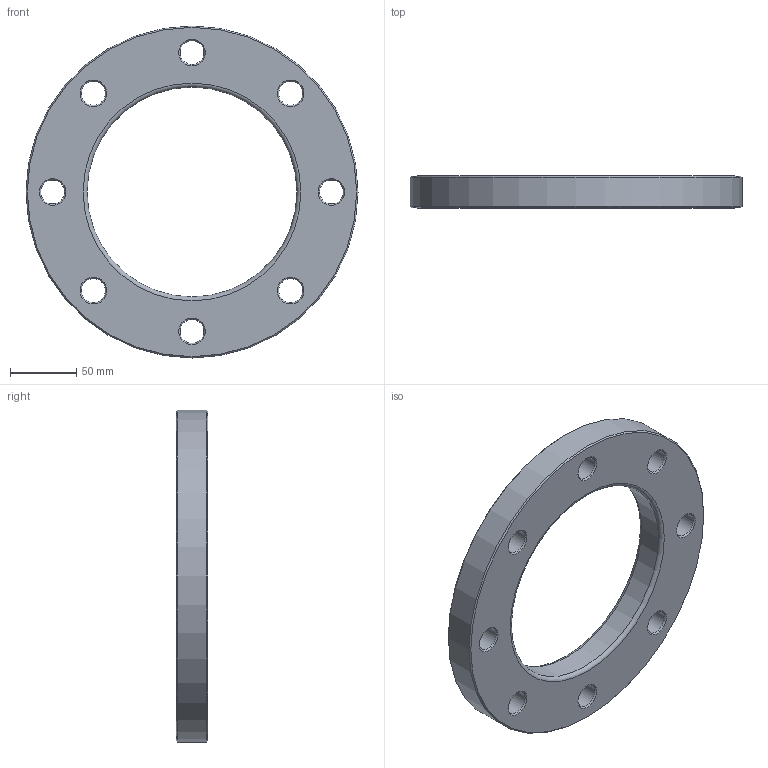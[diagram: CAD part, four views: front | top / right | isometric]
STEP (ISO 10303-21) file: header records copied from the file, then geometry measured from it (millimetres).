
FILE_DESCRIPTION(/* description */ ('Unknown'),/* implementation_level */ '2;1');
FILE_NAME(/* name */ 'FR140C',/* time_stamp */ '2022-07-05T16:48:35+02:00',/* author */ ('Unknown'),/* organization */ ('Unknown'),/* preprocessor_version */ 'ST-DEVELOPER v18.102',/* originating_system */ 'Solid Edge',/* authorisation */ 'Unknown');
FILE_SCHEMA (('AUTOMOTIVE_DESIGN {1 0 10303 214 3 1 1}'));
Length unit declared in the file: millimetre
Products named in the file (1): FR140C
Bounding box: 250 x 24 x 250 mm (x, y, z)
Volume: 655492.8 mm3; surface area: 93807.5 mm2
Topology: 1 solids, 1 shells, 32 faces, 94 edges, 64 vertices
Faces by surface type: cone 18, cylinder 10, plane 2, torus 2
Full cylindrical faces by diameter (mm): 18 x8, 158 x1, 250 x1
Entity records: 790 total; most frequent: DIRECTION 146, CARTESIAN_POINT 113, ORIENTED_EDGE 80, EDGE_LOOP 80, FACE_BOUND 80, AXIS2_PLACEMENT_3D 73, EDGE_CURVE 40, VERTEX_POINT 40
